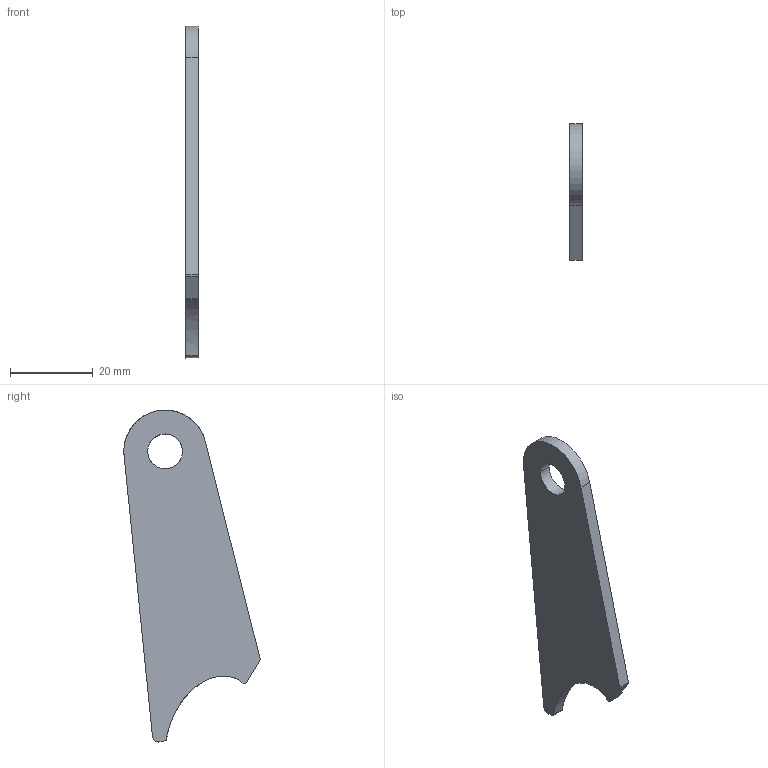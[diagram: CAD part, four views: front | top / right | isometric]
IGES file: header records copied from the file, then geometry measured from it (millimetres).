
Start section: START RECORD GO HERE.
Global section: file name: 20M_SU_08003 (Chape Rocker 8mm).igs; native system: 44HIBM CATIA IGES - CATIA Version 5 Release 19; preprocessor: CATIA Version 5 Release 19 ; author: Calixthe; organization: MACHINEDECALOU; date: 20200115.210230; units: millimetre
Bounding box: 3 x 32.95 x 80.3 mm (x, y, z)
Surface area: 3752.1 mm2 (no closed solid volume)
Topology: 0 solids, 0 shells, 17 faces, 91 edges, 95 vertices
Faces by surface type: revolution 8, plane 7, extrusion 2
